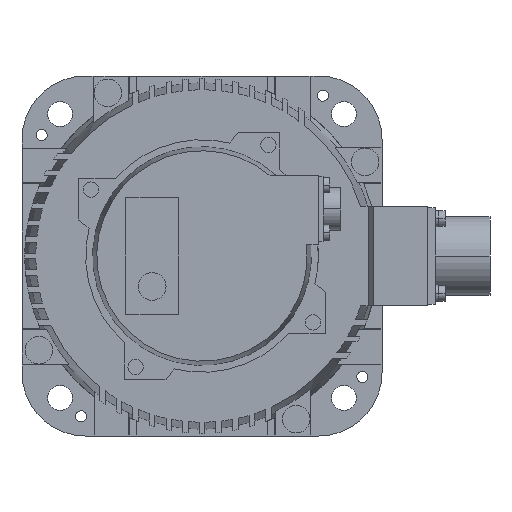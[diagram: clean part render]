
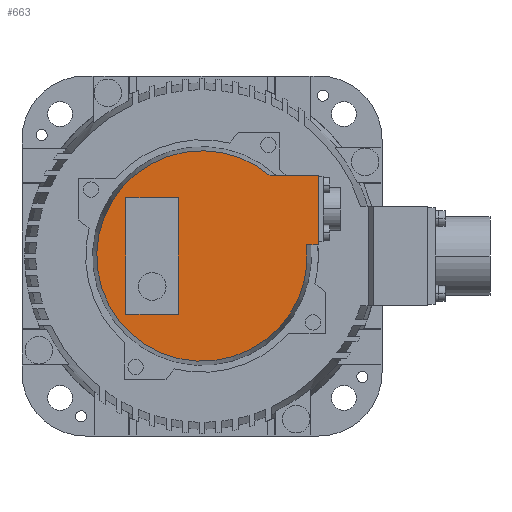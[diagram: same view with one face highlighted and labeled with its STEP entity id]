
A CAD part, left-side view. The second image highlights one B-rep face of the part: STEP entity #663.
In plain terms, the highlighted planar face has unit normal (-1, 0, 0).
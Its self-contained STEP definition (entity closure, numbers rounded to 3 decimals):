
#663=ADVANCED_FACE('',(#6348,#6349),#6347,.F.);
#6347=PLANE('',#10462);
#6348=FACE_OUTER_BOUND('',#10463,.T.);
#6349=FACE_BOUND('',#10464,.T.);
#10459=CARTESIAN_POINT('',(-169.,-52.891,71.254));
#10460=DIRECTION('',(1.,0.,0.));
#10461=DIRECTION('',(0.,0.,-1.));
#10462=AXIS2_PLACEMENT_3D('',#10459,#10460,#10461);
#10463=EDGE_LOOP('',(#14235,#14236,#14237,#14238));
#10464=EDGE_LOOP('',(#14239,#14240,#14241,#14242));
#14235=ORIENTED_EDGE('',*,*,#15489,.F.);
#14236=ORIENTED_EDGE('',*,*,#14784,.F.);
#14237=ORIENTED_EDGE('',*,*,#15493,.F.);
#14238=ORIENTED_EDGE('',*,*,#14776,.F.);
#14239=ORIENTED_EDGE('',*,*,#15504,.F.);
#14240=ORIENTED_EDGE('',*,*,#15508,.F.);
#14241=ORIENTED_EDGE('',*,*,#15511,.F.);
#14242=ORIENTED_EDGE('',*,*,#15514,.F.);
#14776=EDGE_CURVE('',#16672,#16679,#16680,.T.);
#14784=EDGE_CURVE('',#16726,#16733,#16734,.T.);
#15489=EDGE_CURVE('',#16733,#16672,#21530,.T.);
#15493=EDGE_CURVE('',#16679,#16726,#21556,.T.);
#15504=EDGE_CURVE('',#21632,#21633,#21634,.T.);
#15508=EDGE_CURVE('',#21660,#21632,#21661,.T.);
#15511=EDGE_CURVE('',#21680,#21660,#21681,.T.);
#15514=EDGE_CURVE('',#21633,#21680,#21700,.T.);
#16672=VERTEX_POINT('',#28681);
#16679=VERTEX_POINT('',#28686);
#16680=LINE('',#28687,#28688);
#16726=VERTEX_POINT('',#28713);
#16733=VERTEX_POINT('',#28717);
#16734=LINE('',#28718,#28719);
#21530=CIRCLE('',#31654,38.);
#21556=LINE('',#31669,#31670);
#21632=VERTEX_POINT('',#31718);
#21633=VERTEX_POINT('',#31719);
#21634=LINE('',#31720,#31721);
#21660=VERTEX_POINT('',#31734);
#21661=LINE('',#31735,#31736);
#21680=VERTEX_POINT('',#31745);
#21681=LINE('',#31746,#31747);
#21700=LINE('',#31756,#31757);
#28681=CARTESIAN_POINT('',(-169.,-24.556,29.));
#28686=CARTESIAN_POINT('',(-169.,-42.,29.));
#28687=CARTESIAN_POINT('',(-169.,-24.556,29.));
#28688=VECTOR('',#28689,17.444);
#28689=DIRECTION('',(0.,-1.,0.));
#28713=CARTESIAN_POINT('',(-169.,-42.,4.));
#28717=CARTESIAN_POINT('',(-169.,-37.789,4.));
#28718=CARTESIAN_POINT('',(-169.,-42.,4.));
#28719=VECTOR('',#28720,4.211);
#28720=DIRECTION('',(0.,1.,0.));
#31651=CARTESIAN_POINT('',(-169.,0.,0.));
#31652=DIRECTION('',(1.,0.,0.));
#31653=DIRECTION('',(0.,-0.994,0.105));
#31654=AXIS2_PLACEMENT_3D('',#31651,#31652,#31653);
#31669=CARTESIAN_POINT('',(-169.,-42.,29.));
#31670=VECTOR('',#31671,25.);
#31671=DIRECTION('',(0.,0.,-1.));
#31718=CARTESIAN_POINT('',(-169.,8.5,-21.));
#31719=CARTESIAN_POINT('',(-169.,8.5,21.));
#31720=CARTESIAN_POINT('',(-169.,8.5,-21.));
#31721=VECTOR('',#31722,42.);
#31722=DIRECTION('',(0.,0.,1.));
#31734=CARTESIAN_POINT('',(-169.,27.5,-21.));
#31735=CARTESIAN_POINT('',(-169.,27.5,-21.));
#31736=VECTOR('',#31737,19.);
#31737=DIRECTION('',(0.,-1.,0.));
#31745=CARTESIAN_POINT('',(-169.,27.5,21.));
#31746=CARTESIAN_POINT('',(-169.,27.5,21.));
#31747=VECTOR('',#31748,42.);
#31748=DIRECTION('',(0.,0.,-1.));
#31756=CARTESIAN_POINT('',(-169.,8.5,21.));
#31757=VECTOR('',#31758,19.);
#31758=DIRECTION('',(0.,1.,0.));
